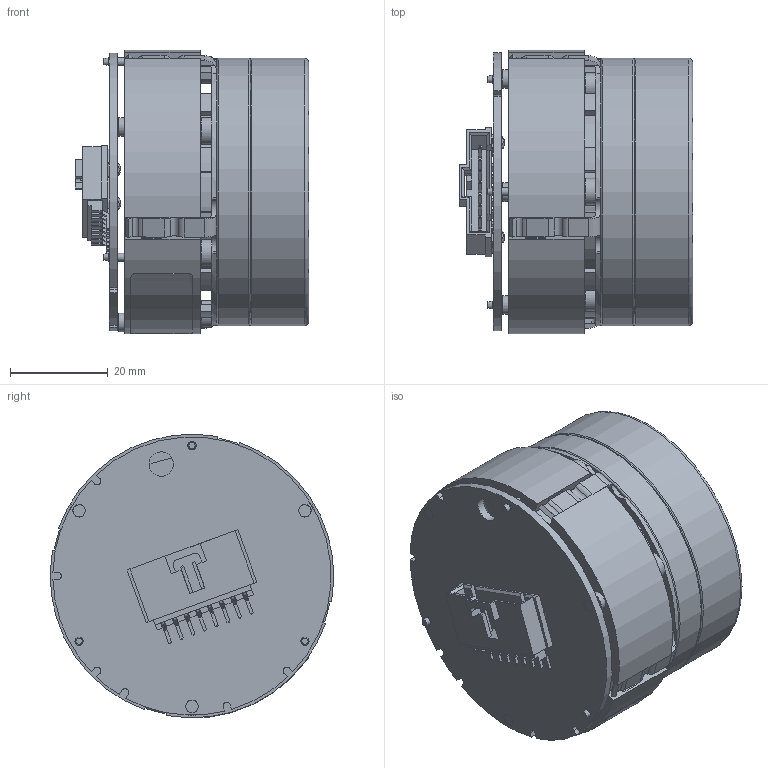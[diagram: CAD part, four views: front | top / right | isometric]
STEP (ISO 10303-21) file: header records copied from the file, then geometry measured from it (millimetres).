
FILE_DESCRIPTION (( 'STEP AP214' ), '1' );
FILE_NAME ('PD20-PM-00A.STEP', '2017-03-03T21:12:17', ( '' ), ( '' ), 'SwSTEP 2.0', 'SolidWorks 2015', '' );
FILE_SCHEMA (( 'AUTOMOTIVE_DESIGN' ));
Length unit declared in the file: millimetre
Products named in the file (20): PD20-BO-00; PD20-BB-00; PD01-CU-00; PD01-SC-00; PD01-MA-00A; Label^PD01-MA-00A; Connector^PD01-MA-00A; Pins^PD01-MA-00A; PCB^PD01-MA-00A; Mol^PD01-MA-00A; Lam^PD01-MA-00A; PD20-PU-00; PD20-PM-00A; MB0112; PD01-EP-00
Assembly tree (21 placements, depth 4):
  PD20-PM-00A
    PD01-MA-00A
      Lam^PD01-MA-00A
      Mol^PD01-MA-00A
      PCB^PD01-MA-00A
      Pins^PD01-MA-00A  x3
      Connector^PD01-MA-00A
      Label^PD01-MA-00A
    PD20-PU-00
      PD01-SC-00
      PD01-CU-00
      PD20-BO-00
        PD20-BB-00
      PD01-EP-00
      PD01-SC-00
      PD01-SC-00
      PD01-SC-00
      PD01-SC-00
      PD01-SC-00
      MB0112
Bounding box: 47.79 x 58.08 x 58.08 mm (x, y, z)
Volume: 76217.7 mm3; surface area: 48938 mm2
Topology: 18 solids, 18 shells, 1168 faces, 3211 edges, 2109 vertices
Faces by surface type: plane 702, cylinder 420, torus 29, cone 15, bspline 2
Full cylindrical faces by diameter (mm): 1.6 x15, 1.7 x3, 2.4 x6, 2.5 x3, 2.55 x3, 3.3 x8, 3.4 x2, 3.8 x3, 5 x1, 5.5 x6, 6 x2, 8.4 x2, 26 x1, 36.1 x1, 38 x1, 42.7 x2, 49.1 x1, 54.8 x2
Entity records: 39297 total; most frequent: CARTESIAN_POINT 6736, DIRECTION 6231, ORIENTED_EDGE 6096, EDGE_CURVE 3048, VECTOR 2115, LINE 2115, AXIS2_PLACEMENT_3D 2058, VERTEX_POINT 2055
